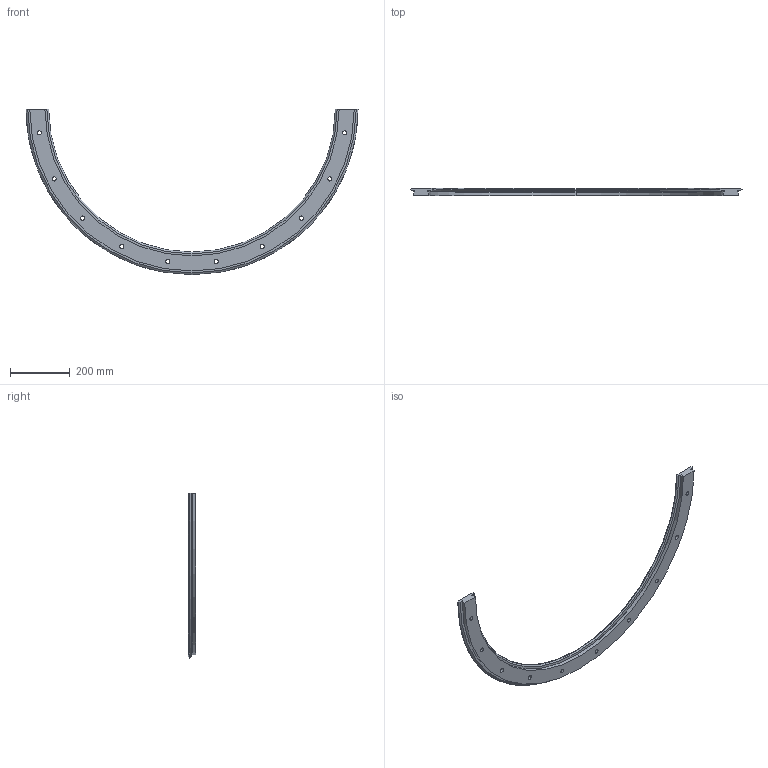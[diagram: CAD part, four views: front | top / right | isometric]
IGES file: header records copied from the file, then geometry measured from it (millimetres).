
Start section: 3D InterOp IGES (v. 2020 1.0.1), Spatial Corp. Copyright (c) 1999-2017.
Global section: file name: r76_1033_r180.igs; native system: Spatial Corp.; preprocessor: 3D InterOp ACIS/IGES; author: TraceParts; organization: TraceParts S.A.; date: 20220624.073235; units: millimetre
Bounding box: 1108.6 x 24 x 552.3 mm (x, y, z)
Surface area: 341133.8 mm2 (no closed solid volume)
Topology: 0 solids, 0 shells, 82 faces, 408 edges, 408 vertices
Faces by surface type: revolution 64, extrusion 18
